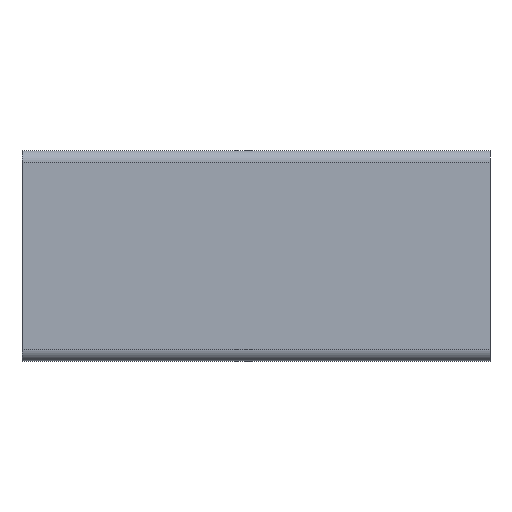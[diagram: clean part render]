
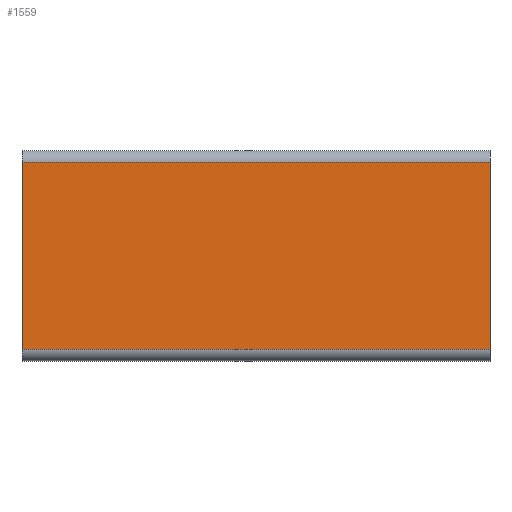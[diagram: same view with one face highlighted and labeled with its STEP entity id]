
A CAD part, top view. The second image highlights one B-rep face of the part: STEP entity #1559.
In plain terms, the highlighted planar face has unit normal (0, 0, 1).
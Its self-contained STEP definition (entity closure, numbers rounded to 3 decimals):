
#47=PLANE('',#1698);
#116=FACE_OUTER_BOUND('',#195,.T.);
#195=EDGE_LOOP('',(#1205,#1206,#1207,#1208));
#334=LINE('',#2486,#505);
#335=LINE('',#2490,#506);
#336=LINE('',#2492,#507);
#337=LINE('',#2493,#508);
#505=VECTOR('',#2023,1000.);
#506=VECTOR('',#2028,1000.);
#507=VECTOR('',#2029,1000.);
#508=VECTOR('',#2030,1000.);
#732=VERTEX_POINT('',#2483);
#733=VERTEX_POINT('',#2485);
#734=VERTEX_POINT('',#2489);
#735=VERTEX_POINT('',#2491);
#929=EDGE_CURVE('',#733,#732,#334,.T.);
#931=EDGE_CURVE('',#732,#734,#335,.T.);
#932=EDGE_CURVE('',#735,#734,#336,.T.);
#933=EDGE_CURVE('',#733,#735,#337,.T.);
#1205=ORIENTED_EDGE('',*,*,#931,.T.);
#1206=ORIENTED_EDGE('',*,*,#932,.F.);
#1207=ORIENTED_EDGE('',*,*,#933,.F.);
#1208=ORIENTED_EDGE('',*,*,#929,.T.);
#1559=ADVANCED_FACE('',(#116),#47,.F.);
#1698=AXIS2_PLACEMENT_3D('',#2488,#2026,#2027);
#2023=DIRECTION('',(-1.,0.,0.));
#2026=DIRECTION('center_axis',(0.,0.,-1.));
#2027=DIRECTION('ref_axis',(0.,1.,0.));
#2028=DIRECTION('',(0.,-1.,0.));
#2029=DIRECTION('',(-1.,0.,0.));
#2030=DIRECTION('',(0.,-1.,0.));
#2483=CARTESIAN_POINT('',(0.,20.,22.5));
#2485=CARTESIAN_POINT('',(100.,20.,22.5));
#2486=CARTESIAN_POINT('',(100.,20.,22.5));
#2488=CARTESIAN_POINT('Origin',(100.,-20.,22.5));
#2489=CARTESIAN_POINT('',(0.,-20.,22.5));
#2490=CARTESIAN_POINT('',(0.,-20.,22.5));
#2491=CARTESIAN_POINT('',(100.,-20.,22.5));
#2492=CARTESIAN_POINT('',(100.,-20.,22.5));
#2493=CARTESIAN_POINT('',(100.,-20.,22.5));
